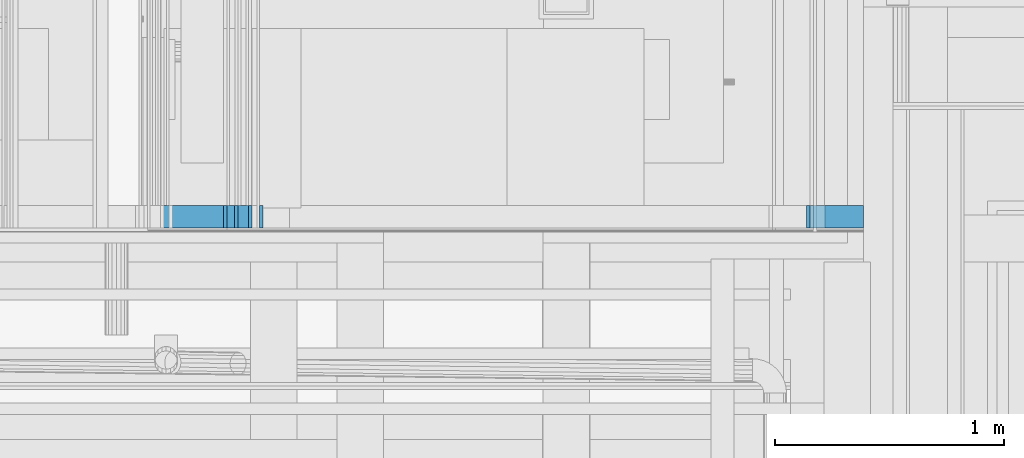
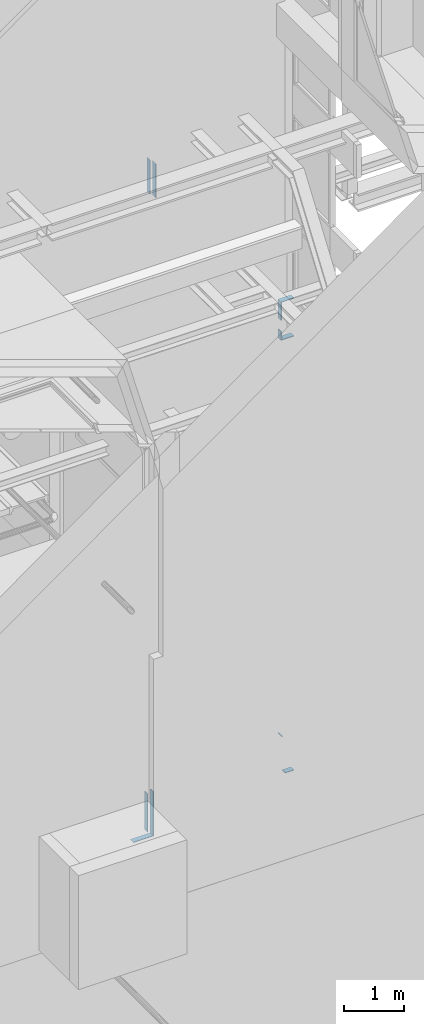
# One storey, part 191 of 583: 11 building element parts, 8 elements without a shape of their own.
"""IFC2X3 building model written with IfcOpenShell, lengths in metres."""

from ifc_helpers import new_model, entity, si_unit, converted_unit, derived_unit, money_unit, direction, frame, frame_2d, origin_with_axes, place, context, subcontext, project, spatial, polyline, rectangle, outline, extrude, material, type_object, element, aggregate, save


model = new_model("IFC2X3")

# Units and contexts
model_context = context("Model", 3, precision=1e-05, world=origin_with_axes(), true_north=direction((0.0, 1.0)))
body_context = subcontext(model_context, "Body", "Model", "MODEL_VIEW", scale=1.0)
ifc_project = project(units=[si_unit("LENGTHUNIT", "METRE"), si_unit("AREAUNIT", "SQUARE_METRE"), si_unit("VOLUMEUNIT", "CUBIC_METRE"), si_unit("ABSORBEDDOSEUNIT", "GRAY"), si_unit("AMOUNTOFSUBSTANCEUNIT", "MOLE"), si_unit("DOSEEQUIVALENTUNIT", "SIEVERT"), si_unit("ELECTRICCAPACITANCEUNIT", "FARAD"), si_unit("ELECTRICCHARGEUNIT", "COULOMB"), si_unit("ELECTRICCONDUCTANCEUNIT", "SIEMENS"), si_unit("ELECTRICCURRENTUNIT", "AMPERE"), si_unit("ELECTRICRESISTANCEUNIT", "OHM"), si_unit("ELECTRICVOLTAGEUNIT", "VOLT"), si_unit("ENERGYUNIT", "JOULE"), si_unit("FORCEUNIT", "NEWTON"), si_unit("FREQUENCYUNIT", "HERTZ"), si_unit("ILLUMINANCEUNIT", "LUX"), si_unit("INDUCTANCEUNIT", "HENRY"), si_unit("LUMINOUSFLUXUNIT", "LUMEN"), si_unit("LUMINOUSINTENSITYUNIT", "CANDELA"), si_unit("MAGNETICFLUXDENSITYUNIT", "TESLA"), si_unit("MAGNETICFLUXUNIT", "WEBER"), si_unit("MASSUNIT", "GRAM"), converted_unit("PLANEANGLEUNIT", "degree", entity("IfcReal", 0.0174532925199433), si_unit("PLANEANGLEUNIT", "RADIAN"), dimensions=[0, 0, 0, 0, 0, 0, 0]), si_unit("POWERUNIT", "WATT"), si_unit("PRESSUREUNIT", "PASCAL"), si_unit("RADIOACTIVITYUNIT", "BECQUEREL"), si_unit("SOLIDANGLEUNIT", "STERADIAN"), si_unit("THERMODYNAMICTEMPERATUREUNIT", "KELVIN"), si_unit("TIMEUNIT", "SECOND"), derived_unit("ACCELERATIONUNIT", [(si_unit("LENGTHUNIT", "METRE"), 1), (si_unit("TIMEUNIT", "SECOND"), -2)]), derived_unit("ANGULARVELOCITYUNIT", [(converted_unit("PLANEANGLEUNIT", "degree", entity("IfcReal", 0.0174532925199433), si_unit("PLANEANGLEUNIT", "RADIAN"), dimensions=[0, 0, 0, 0, 0, 0, 0]), 1), (si_unit("TIMEUNIT", "SECOND"), -1)]), derived_unit("CURVATUREUNIT", [(converted_unit("PLANEANGLEUNIT", "degree", entity("IfcReal", 0.0174532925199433), si_unit("PLANEANGLEUNIT", "RADIAN"), dimensions=[0, 0, 0, 0, 0, 0, 0]), 1), (si_unit("LENGTHUNIT", "METRE"), -1)]), derived_unit("DYNAMICVISCOSITYUNIT", [(si_unit("PRESSUREUNIT", "PASCAL"), 1), (si_unit("TIMEUNIT", "SECOND"), 1)]), derived_unit("HEATFLUXDENSITYUNIT", [(si_unit("POWERUNIT", "WATT"), 1), (si_unit("LENGTHUNIT", "METRE"), -2)]), derived_unit("HEATINGVALUEUNIT", [(si_unit("ENERGYUNIT", "JOULE"), 1), (si_unit("MASSUNIT", "GRAM"), -1)]), derived_unit("INTEGERCOUNTRATEUNIT", [(si_unit("TIMEUNIT", "SECOND"), -1)]), derived_unit("IONCONCENTRATIONUNIT", [(si_unit("MASSUNIT", "GRAM"), 1), (si_unit("VOLUMEUNIT", "CUBIC_METRE"), -1)]), derived_unit("ISOTHERMALMOISTURECAPACITYUNIT", [(si_unit("VOLUMEUNIT", "CUBIC_METRE"), 1), (si_unit("MASSUNIT", "GRAM"), -1)]), derived_unit("KINEMATICVISCOSITYUNIT", [(si_unit("AREAUNIT", "SQUARE_METRE"), 1), (si_unit("TIMEUNIT", "SECOND"), -1)]), derived_unit("LINEARFORCEUNIT", [(si_unit("FORCEUNIT", "NEWTON"), 1), (si_unit("LENGTHUNIT", "METRE"), -1)]), derived_unit("LINEARMOMENTUNIT", [(si_unit("FORCEUNIT", "NEWTON"), 1), (si_unit("LENGTHUNIT", "METRE"), -1)]), derived_unit("LINEARSTIFFNESSUNIT", [(si_unit("FORCEUNIT", "NEWTON"), 1), (si_unit("LENGTHUNIT", "METRE"), -1)]), derived_unit("LINEARVELOCITYUNIT", [(si_unit("LENGTHUNIT", "METRE"), 1), (si_unit("TIMEUNIT", "SECOND"), -1)]), derived_unit("LUMINOUSINTENSITYDISTRIBUTIONUNIT", [(si_unit("LUMINOUSINTENSITYUNIT", "CANDELA"), 1), (si_unit("LUMINOUSFLUXUNIT", "LUMEN"), -1)]), derived_unit("MASSDENSITYUNIT", [(si_unit("MASSUNIT", "GRAM"), 1), (si_unit("VOLUMEUNIT", "CUBIC_METRE"), -1)]), derived_unit("MASSFLOWRATEUNIT", [(si_unit("MASSUNIT", "GRAM"), 1), (si_unit("TIMEUNIT", "SECOND"), -1)]), derived_unit("MASSPERLENGTHUNIT", [(si_unit("MASSUNIT", "GRAM"), 1), (si_unit("LENGTHUNIT", "METRE"), -1)]), derived_unit("MODULUSOFELASTICITYUNIT", [(si_unit("FORCEUNIT", "NEWTON"), 1), (si_unit("AREAUNIT", "SQUARE_METRE"), -1)]), derived_unit("MODULUSOFLINEARSUBGRADEREACTIONUNIT", [(si_unit("FORCEUNIT", "NEWTON"), 1), (si_unit("LENGTHUNIT", "METRE"), -2)]), derived_unit("MODULUSOFROTATIONALSUBGRADEREACTIONUNIT", [(si_unit("FORCEUNIT", "NEWTON"), 1), (si_unit("LENGTHUNIT", "METRE"), 1)]), derived_unit("MODULUSOFSUBGRADEREACTIONUNIT", [(si_unit("FORCEUNIT", "NEWTON"), 1), (si_unit("VOLUMEUNIT", "CUBIC_METRE"), -1)]), derived_unit("MOISTUREDIFFUSIVITYUNIT", [(si_unit("VOLUMEUNIT", "CUBIC_METRE"), 1), (si_unit("TIMEUNIT", "SECOND"), -1)]), derived_unit("MOLECULARWEIGHTUNIT", [(si_unit("MASSUNIT", "GRAM"), 1), (si_unit("AMOUNTOFSUBSTANCEUNIT", "MOLE"), -1)]), derived_unit("PLANARFORCEUNIT", [(si_unit("FORCEUNIT", "NEWTON"), 1), (si_unit("LENGTHUNIT", "METRE"), -2)]), derived_unit("ROTATIONALFREQUENCYUNIT", [(si_unit("TIMEUNIT", "SECOND"), -1)]), derived_unit("ROTATIONALMASSUNIT", [(si_unit("MASSUNIT", "GRAM"), 1), (si_unit("LENGTHUNIT", "METRE"), 2)]), derived_unit("ROTATIONALSTIFFNESSUNIT", [(si_unit("FORCEUNIT", "NEWTON"), 1), (si_unit("LENGTHUNIT", "METRE"), 1), (converted_unit("PLANEANGLEUNIT", "degree", entity("IfcReal", 0.0174532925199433), si_unit("PLANEANGLEUNIT", "RADIAN"), dimensions=[0, 0, 0, 0, 0, 0, 0]), -1)]), derived_unit("SECTIONAREAINTEGRALUNIT", [(si_unit("LENGTHUNIT", "METRE"), 5)]), derived_unit("SECTIONMODULUSUNIT", [(si_unit("LENGTHUNIT", "METRE"), 3)]), derived_unit("SHEARMODULUSUNIT", [(si_unit("FORCEUNIT", "NEWTON"), 1), (si_unit("AREAUNIT", "SQUARE_METRE"), -1)]), derived_unit("SOUNDPOWERUNIT", [(si_unit("ENERGYUNIT", "JOULE"), 1), (si_unit("TIMEUNIT", "SECOND"), -1)]), derived_unit("SPECIFICHEATCAPACITYUNIT", [(si_unit("FORCEUNIT", "NEWTON"), 1), (si_unit("MASSUNIT", "GRAM"), -1), (si_unit("THERMODYNAMICTEMPERATUREUNIT", "KELVIN"), -1)]), derived_unit("TEMPERATUREGRADIENTUNIT", [(si_unit("THERMODYNAMICTEMPERATUREUNIT", "KELVIN"), 1), (si_unit("LENGTHUNIT", "METRE"), -1)]), derived_unit("THERMALADMITTANCEUNIT", [(si_unit("POWERUNIT", "WATT"), 1), (si_unit("AREAUNIT", "SQUARE_METRE"), -1), (si_unit("THERMODYNAMICTEMPERATUREUNIT", "KELVIN"), -1)]), derived_unit("THERMALCONDUCTANCEUNIT", [(si_unit("POWERUNIT", "WATT"), 1), (si_unit("LENGTHUNIT", "METRE"), -1), (si_unit("THERMODYNAMICTEMPERATUREUNIT", "KELVIN"), -1)]), derived_unit("THERMALEXPANSIONCOEFFICIENTUNIT", [(si_unit("THERMODYNAMICTEMPERATUREUNIT", "KELVIN"), -1)]), derived_unit("THERMALRESISTANCEUNIT", [(si_unit("AREAUNIT", "SQUARE_METRE"), 1), (si_unit("POWERUNIT", "WATT"), -1)]), derived_unit("THERMALTRANSMITTANCEUNIT", [(si_unit("POWERUNIT", "WATT"), 1), (si_unit("AREAUNIT", "SQUARE_METRE"), -1), (si_unit("THERMODYNAMICTEMPERATUREUNIT", "KELVIN"), -1)]), derived_unit("TORQUEUNIT", [(si_unit("FORCEUNIT", "NEWTON"), 1), (si_unit("LENGTHUNIT", "METRE"), 1)]), derived_unit("VAPORPERMEABILITYUNIT", [(si_unit("MASSUNIT", "GRAM"), 1), (si_unit("TIMEUNIT", "SECOND"), -1)]), derived_unit("VOLUMETRICFLOWRATEUNIT", [(si_unit("VOLUMEUNIT", "CUBIC_METRE"), 1), (si_unit("TIMEUNIT", "SECOND"), -1)]), derived_unit("WARPINGCONSTANTUNIT", [(si_unit("LENGTHUNIT", "METRE"), 6)]), derived_unit("WARPINGMOMENTUNIT", [(si_unit("FORCEUNIT", "NEWTON"), 1), (si_unit("LENGTHUNIT", "METRE"), 2)]), money_unit("GBP")], contexts=[model_context])

# Site, building, storey
site_placement = place(None, origin_with_axes())
site = spatial("IfcSite", under=ifc_project, at=site_placement, Name="Site", CompositionType="ELEMENT")
building_placement = place(site_placement, origin_with_axes())
building = spatial("IfcBuilding", under=site, at=building_placement, Name="Building01", CompositionType="ELEMENT")
storey_placement = place(building_placement, frame((0.0, 0.0, 20.78), z_axis=(0.0, 0.0, 1.0), x_axis=(1.0, 0.0, 0.0)))
storey = spatial("IfcBuildingStorey", under=building, at=storey_placement, Name="RL", CompositionType="ELEMENT", Elevation=20.78)

# Wall, building element parts
wall_type_1 = type_object("IfcWallType", Name="SHE_A-Walls_Type05a_Partition_95mm_tall", PredefinedType="NOTDEFINED")
wall_1_placement = place(storey_placement, frame((12.099378, 5.15, -1.694716), z_axis=(0.0, 1.0, 0.0), x_axis=(0.0, 0.0, 1.0)))
wall_1 = element("IfcWall", 1, at=wall_1_placement, inside=storey, type_object=wall_type_1, Name="5A", ObjectType="SHE_A-Walls_Type05a_Partition_95mm_tall")
ifc_material = material(Name="A_BSUK_Walls_Timber")
placement_1 = place(wall_1_placement, origin_with_axes())
building_element_part_1 = element("IfcBuildingElementPart", 2, at=placement_1, material=ifc_material, Name="2", context=body_context, shape_type="SweptSolid", body=[
    extrude(outline(polyline([(0.614716, 0.075), (-0.075, 0.075), (-0.06, 0.06), (0.629716, 0.06), (0.614716, 0.075)])), frame((0.0, 0.0, 0.015), z_axis=(0.0, 0.0, 1.0), x_axis=(1.0, 0.0, 0.0)), (0.0, 0.0, 1.0), 0.1),
])
building_element_part_2 = element("IfcBuildingElementPart", 3, at=placement_1, material=ifc_material, Name="3", context=body_context, shape_type="SweptSolid", body=[
    extrude(outline(polyline([(0.724716, -0.035), (0.035, -0.035), (0.05, -0.05), (0.739716, -0.05), (0.724716, -0.035)])), frame((0.0, 0.0, 0.015), z_axis=(0.0, 0.0, 1.0), x_axis=(1.0, 0.0, 0.0)), (0.0, 0.0, 1.0), 0.1),
])
aggregate(wall_1, [building_element_part_1, building_element_part_2])

# Wall, building element part
wall_2_placement = place(storey_placement, frame((11.66567, 5.15, -14.550331), z_axis=(0.0, 1.0, 0.0), x_axis=(1.0, 0.0, 0.0)))
wall_2 = element("IfcWall", 4, at=wall_2_placement, inside=storey, type_object=wall_type_1, Name="5A", ObjectType="SHE_A-Walls_Type05a_Partition_95mm_tall")
building_element_part_3_placement = place(wall_2_placement, origin_with_axes())
building_element_part_3 = element("IfcBuildingElementPart", 5, at=building_element_part_3_placement, material=ifc_material, Name="2", context=body_context, shape_type="SweptSolid", body=[
    extrude(outline(polyline([(0.46, 0.075), (0.075, 0.075), (0.06, 0.06), (0.445, 0.06), (0.46, 0.075)])), frame((0.0, 0.0, 0.015), z_axis=(0.0, 0.0, 1.0), x_axis=(1.0, 0.0, 0.0)), (0.0, 0.0, 1.0), 0.1),
])
aggregate(wall_2, [building_element_part_3])

# Wall, building element parts
wall_3_placement = place(storey_placement, frame((12.05067, 5.15, -14.550331), z_axis=(0.0, 1.0, 0.0), x_axis=(0.0, 0.0, 1.0)))
wall_3 = element("IfcWall", 6, at=wall_3_placement, inside=storey, type_object=wall_type_1, Name="5A", ObjectType="SHE_A-Walls_Type05a_Partition_95mm_tall")
placement_2 = place(wall_3_placement, origin_with_axes())
building_element_part_4 = element("IfcBuildingElementPart", 7, at=placement_2, material=ifc_material, Name="2", context=body_context, shape_type="SweptSolid", body=[
    extrude(outline(polyline([(0.82, 0.075), (-0.075, 0.075), (-0.06, 0.06), (0.82, 0.06), (0.82, 0.075)])), frame((0.0, 0.0, 0.015), z_axis=(0.0, 0.0, 1.0), x_axis=(1.0, 0.0, 0.0)), (0.0, 0.0, 1.0), 0.1),
])
building_element_part_5 = element("IfcBuildingElementPart", 8, at=placement_2, material=ifc_material, Name="3", context=body_context, shape_type="SweptSolid", body=[
    extrude(outline(polyline([(0.82, -0.035), (0.035, -0.035), (0.05, -0.05), (0.82, -0.05), (0.82, -0.035)])), frame((0.0, 0.0, 0.015), z_axis=(0.0, 0.0, 1.0), x_axis=(1.0, 0.0, 0.0)), (0.0, 0.0, 1.0), 0.1),
])
aggregate(wall_3, [building_element_part_4, building_element_part_5])

# Wall, building element part
wall_type_2 = type_object("IfcWallType", Name="SHE_A-Walls_Type06f_ExternalWallInsulation_48+15mm", PredefinedType="NOTDEFINED")
wall_4_placement = place(storey_placement, frame((14.8, 5.15, -4.755), z_axis=(0.0, 1.0, 0.0), x_axis=(-1.0, 0.0, 0.0)))
wall_4 = element("IfcWall", 9, at=wall_4_placement, inside=storey, type_object=wall_type_2, Name="6F", ObjectType="SHE_A-Walls_Type06f_ExternalWallInsulation_48+15mm")
building_element_part_6_placement = place(wall_4_placement, origin_with_axes())
building_element_part_6 = element("IfcBuildingElementPart", 10, at=building_element_part_6_placement, material=ifc_material, Name="2", context=body_context, shape_type="SweptSolid", body=[
    extrude(outline(polyline([(0.248, 0.06), (0.0, 0.06), (0.0, 0.045), (0.233, 0.045), (0.248, 0.06)])), frame((0.0, 0.0, 0.015), z_axis=(0.0, 0.0, 1.0), x_axis=(1.0, 0.0, 0.0)), (0.0, 0.0, 1.0), 0.1),
])
aggregate(wall_4, [building_element_part_6])

wall_5_placement = place(storey_placement, frame((14.612, 5.15, -5.415), z_axis=(0.0, 1.0, 0.0), x_axis=(1.0, 0.0, 0.0)))
wall_5 = element("IfcWall", 11, at=wall_5_placement, inside=storey, type_object=wall_type_2, Name="6F", ObjectType="SHE_A-Walls_Type06f_ExternalWallInsulation_48+15mm")
building_element_part_7_placement = place(wall_5_placement, origin_with_axes())
building_element_part_7 = element("IfcBuildingElementPart", 12, at=building_element_part_7_placement, material=ifc_material, Name="2", context=body_context, shape_type="SweptSolid", body=[
    extrude(outline(polyline([(-0.06, 0.06), (-0.045, 0.045), (0.188, 0.045), (0.188, 0.06), (-0.06, 0.06)])), frame((0.0, 0.0, 0.015), z_axis=(0.0, 0.0, 1.0), x_axis=(1.0, 0.0, 0.0)), (0.0, 0.0, 1.0), 0.1),
])
aggregate(wall_5, [building_element_part_7])

# Wall, building element parts
wall_6_placement = place(storey_placement, frame((14.612, 5.15, -4.755), z_axis=(0.0, 1.0, 0.0), x_axis=(0.0, 0.0, -1.0)))
wall_6 = element("IfcWall", 13, at=wall_6_placement, inside=storey, type_object=wall_type_2, Name="6F", ObjectType="SHE_A-Walls_Type06f_ExternalWallInsulation_48+15mm")
placement_3 = place(wall_6_placement, origin_with_axes())
building_element_part_8 = element("IfcBuildingElementPart", 14, at=placement_3, material=ifc_material, Name="2", context=body_context, shape_type="SweptSolid", body=[
    extrude(outline(polyline([(-0.06, 0.06), (-0.045, 0.045), (0.316868, 0.045), (0.316868, 0.06), (-0.06, 0.06)])), frame((0.0, 0.0, 0.015), z_axis=(0.0, 0.0, 1.0), x_axis=(1.0, 0.0, 0.0)), (0.0, 0.0, 1.0), 0.1),
])
building_element_part_9 = element("IfcBuildingElementPart", 15, at=placement_3, material=ifc_material, Name="4", context=body_context, shape_type="SweptSolid", body=[
    extrude(outline(polyline([(0.72, 0.06), (0.541868, 0.06), (0.541868, 0.045), (0.705, 0.045), (0.72, 0.06)])), frame((0.0, 0.0, 0.015), z_axis=(0.0, 0.0, 1.0), x_axis=(1.0, 0.0, 0.0)), (0.0, 0.0, 1.0), 0.1),
])
aggregate(wall_6, [building_element_part_8, building_element_part_9])

# Wall, building element part
wall_7_placement = place(storey_placement, frame((14.8, 5.15, -13.515), z_axis=(0.0, 1.0, 0.0), x_axis=(-1.0, 0.0, 0.0)))
wall_7 = element("IfcWall", 16, at=wall_7_placement, inside=storey, type_object=wall_type_2, Name="6F", ObjectType="SHE_A-Walls_Type06f_ExternalWallInsulation_48+15mm")
building_element_part_10_placement = place(wall_7_placement, origin_with_axes())
building_element_part_10 = element("IfcBuildingElementPart", 17, at=building_element_part_10_placement, material=ifc_material, Name="2", context=body_context, shape_type="SweptSolid", body=[
    extrude(outline(polyline([(0.248, 0.06), (0.233, 0.06), (0.218, 0.045), (0.233, 0.045), (0.248, 0.06)])), frame((0.0, 0.0, 0.015), z_axis=(0.0, 0.0, 1.0), x_axis=(1.0, 0.0, 0.0)), (0.0, 0.0, 1.0), 0.1),
])
aggregate(wall_7, [building_element_part_10])

wall_8_placement = place(storey_placement, frame((14.612, 5.15, -14.175), z_axis=(0.0, 1.0, 0.0), x_axis=(1.0, 0.0, 0.0)))
wall_8 = element("IfcWall", 18, at=wall_8_placement, inside=storey, type_object=wall_type_2, Name="6F", ObjectType="SHE_A-Walls_Type06f_ExternalWallInsulation_48+15mm")
building_element_part_11_placement = place(wall_8_placement, origin_with_axes())
building_element_part_11 = element("IfcBuildingElementPart", 19, at=building_element_part_11_placement, material=ifc_material, Name="2", context=body_context, shape_type="SweptSolid", body=[
    extrude(rectangle(XDim=0.168993, YDim=0.015, at=frame_2d((0.103503, 0.0525), x_axis=(1.0, 0.0))), frame((0.0, 0.0, 0.015), z_axis=(0.0, 0.0, 1.0), x_axis=(1.0, 0.0, 0.0)), (0.0, 0.0, 1.0), 0.1),
])
aggregate(wall_8, [building_element_part_11])

save(model, "model.ifc")
